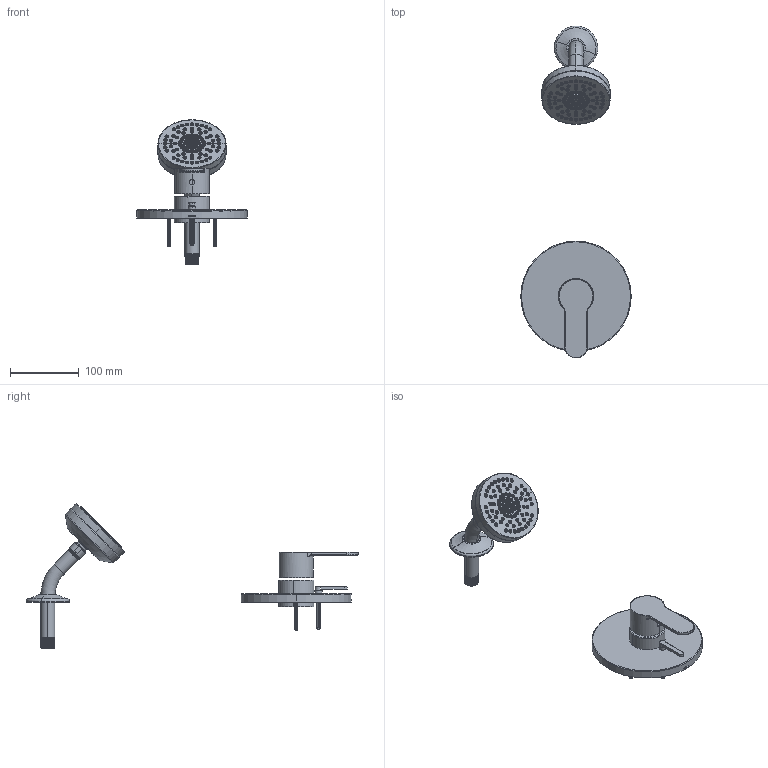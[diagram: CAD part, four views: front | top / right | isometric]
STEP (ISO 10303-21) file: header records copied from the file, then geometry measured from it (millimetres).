
FILE_DESCRIPTION (( 'STEP AP214' ), '1' );
FILE_NAME ('S6791TRM.STEP', '2025-01-15T08:05:15', ( '' ), ( '' ), 'SwSTEP 2.0', 'SolidWorks 2023', '' );
FILE_SCHEMA (( 'AUTOMOTIVE_DESIGN' ));
Products named in the file (1): S6791TRM
Bounding box: 161.04 x 484.11 x 210.78 mm (x, y, z)
Surface area: 172455.1 mm2 (no closed solid volume)
Topology: 0 solids, 236 shells, 1685 faces, 5310 edges, 3767 vertices
Faces by surface type: cone 486, cylinder 424, bspline 346, plane 331, torus 85, sphere 13
Entity records: 178870 total; most frequent: CARTESIAN_POINT 137352, ORIENTED_EDGE 8408, DIRECTION 7149, EDGE_CURVE 5305, VERTEX_POINT 3764, AXIS2_PLACEMENT_3D 2866, B_SPLINE_CURVE_WITH_KNOTS 2339, EDGE_LOOP 2014
